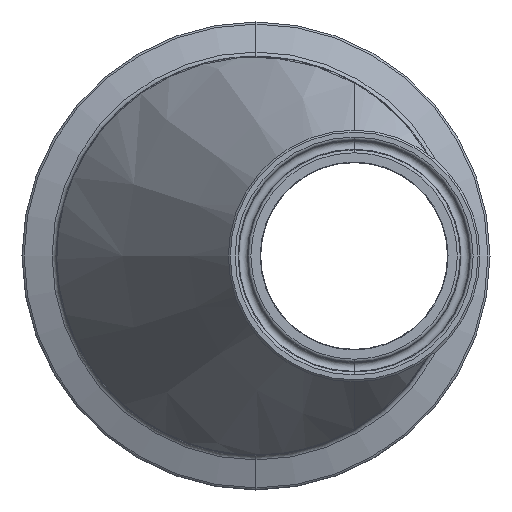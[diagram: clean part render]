
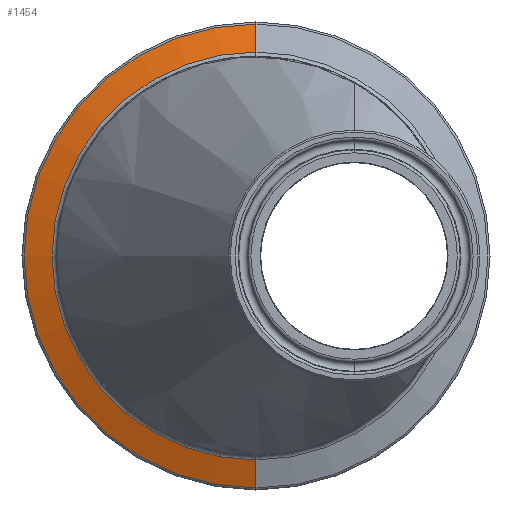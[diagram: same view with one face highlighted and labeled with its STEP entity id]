
A CAD part, left-side view. The second image highlights one B-rep face of the part: STEP entity #1454.
In plain terms, the highlighted conical face has half-angle 70 degrees and reference radius 51.853 mm.
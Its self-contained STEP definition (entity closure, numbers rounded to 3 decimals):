
#65 = VERTEX_POINT ( 'NONE', #721 ) ;
#413 = CIRCLE ( 'NONE', #1384, 58.974 ) ;
#435 = VECTOR ( 'NONE', #560, 1000. ) ;
#442 = DIRECTION ( 'NONE',  ( 0.342, 0., 0.94 ) ) ;
#444 = DIRECTION ( 'NONE',  ( 1., 0., 0. ) ) ;
#468 = DIRECTION ( 'NONE',  ( 0., 0., -1. ) ) ;
#560 = DIRECTION ( 'NONE',  ( 0.342, 0., -0.94 ) ) ;
#593 = ORIENTED_EDGE ( 'NONE', *, *, #2898, .F. ) ;
#661 = CARTESIAN_POINT ( 'NONE',  ( 155.708, 0., 58.974 ) ) ;
#683 = CARTESIAN_POINT ( 'NONE',  ( 155.708, 0., 0. ) ) ;
#684 = DIRECTION ( 'NONE',  ( -1., 0., 0. ) ) ;
#721 = CARTESIAN_POINT ( 'NONE',  ( 155.708, 0., -58.974 ) ) ;
#722 = CARTESIAN_POINT ( 'NONE',  ( 153.117, 0., 0. ) ) ;
#796 = CARTESIAN_POINT ( 'NONE',  ( 153.117, 0., -51.853 ) ) ;
#914 = DIRECTION ( 'NONE',  ( 0., 0., 1. ) ) ;
#962 = AXIS2_PLACEMENT_3D ( 'NONE', #722, #444, #468 ) ;
#969 = LINE ( 'NONE', #2529, #2712 ) ;
#1001 = CARTESIAN_POINT ( 'NONE',  ( 153.117, 0., 51.853 ) ) ;
#1045 = VERTEX_POINT ( 'NONE', #1001 ) ;
#1046 = LINE ( 'NONE', #2890, #435 ) ;
#1263 = VERTEX_POINT ( 'NONE', #661 ) ;
#1384 = AXIS2_PLACEMENT_3D ( 'NONE', #683, #2300, #914 ) ;
#1419 = EDGE_CURVE ( 'NONE', #2362, #65, #1046, .T. ) ;
#1454 = ADVANCED_FACE ( 'NONE', ( #2196 ), #1491, .T. ) ;
#1491 = CONICAL_SURFACE ( 'NONE', #962, 51.853, 1.222 ) ;
#1737 = ORIENTED_EDGE ( 'NONE', *, *, #1419, .F. ) ;
#1975 = EDGE_LOOP ( 'NONE', ( #593, #2218, #2548, #1737 ) ) ;
#2057 = CARTESIAN_POINT ( 'NONE',  ( 153.117, 0., 0. ) ) ;
#2114 = CIRCLE ( 'NONE', #2155, 51.853 ) ;
#2155 = AXIS2_PLACEMENT_3D ( 'NONE', #2057, #684, #2301 ) ;
#2196 = FACE_OUTER_BOUND ( 'NONE', #1975, .T. ) ;
#2218 = ORIENTED_EDGE ( 'NONE', *, *, #2713, .T. ) ;
#2300 = DIRECTION ( 'NONE',  ( -1., 0., 0. ) ) ;
#2301 = DIRECTION ( 'NONE',  ( 0., 0., 1. ) ) ;
#2362 = VERTEX_POINT ( 'NONE', #796 ) ;
#2529 = CARTESIAN_POINT ( 'NONE',  ( 153.117, 0., 51.853 ) ) ;
#2548 = ORIENTED_EDGE ( 'NONE', *, *, #2654, .T. ) ;
#2654 = EDGE_CURVE ( 'NONE', #1263, #65, #413, .T. ) ;
#2712 = VECTOR ( 'NONE', #442, 1000. ) ;
#2713 = EDGE_CURVE ( 'NONE', #1045, #1263, #969, .T. ) ;
#2890 = CARTESIAN_POINT ( 'NONE',  ( 153.117, 0., -51.853 ) ) ;
#2898 = EDGE_CURVE ( 'NONE', #1045, #2362, #2114, .T. ) ;
